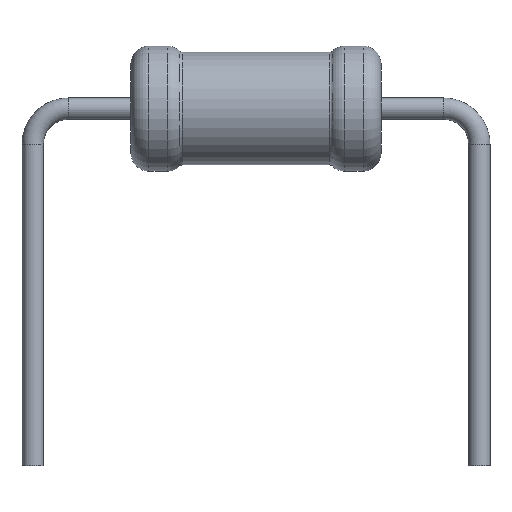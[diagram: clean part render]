
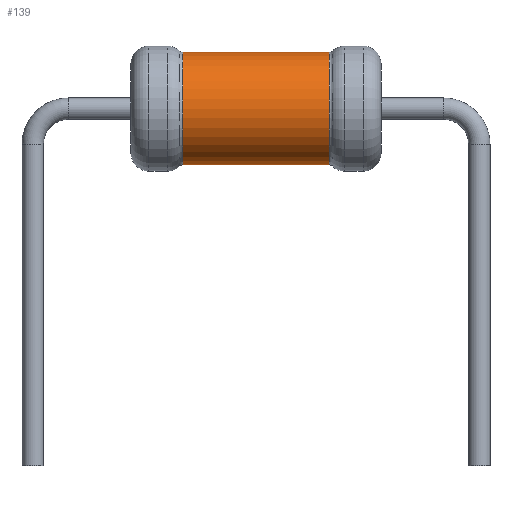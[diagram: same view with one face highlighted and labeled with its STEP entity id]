
A CAD part, front view. The second image highlights one B-rep face of the part: STEP entity #139.
In plain terms, the highlighted cylindrical face has radius 1.575 mm (diameter 3.149 mm), a full revolution.
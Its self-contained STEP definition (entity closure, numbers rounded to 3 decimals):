
#139=ADVANCED_FACE('',(#308,#310),#312,.T.);
#308=FACE_OUTER_BOUND('',#309,.T.);
#309=EDGE_LOOP('',(#413));
#310=FACE_OUTER_BOUND('',#311,.T.);
#311=EDGE_LOOP('',(#414));
#312=CYLINDRICAL_SURFACE('',#313,1.575);
#313=AXIS2_PLACEMENT_3D('',#314,#315,#316);
#314=CARTESIAN_POINT('',(2.057,0.,0.));
#315=DIRECTION('',(-1.,0.,0.));
#316=DIRECTION('',(0.,0.,1.));
#413=ORIENTED_EDGE('',*,*,#440,.T.);
#414=ORIENTED_EDGE('',*,*,#441,.F.);
#440=EDGE_CURVE('',#466,#466,#467,.T.);
#441=EDGE_CURVE('',#468,#468,#469,.T.);
#466=VERTEX_POINT('',#526);
#467=CIRCLE('',#527,1.575);
#468=VERTEX_POINT('',#531);
#469=CIRCLE('',#532,1.575);
#526=CARTESIAN_POINT('',(2.057,0.,1.575));
#527=AXIS2_PLACEMENT_3D('',#528,#529,#530);
#528=CARTESIAN_POINT('',(2.057,0.,0.));
#529=DIRECTION('',(-1.,0.,0.));
#530=DIRECTION('',(0.,0.,1.));
#531=CARTESIAN_POINT('',(-2.057,0.,1.575));
#532=AXIS2_PLACEMENT_3D('',#533,#534,#535);
#533=CARTESIAN_POINT('',(-2.057,0.,0.));
#534=DIRECTION('',(-1.,0.,0.));
#535=DIRECTION('',(0.,0.,1.));
